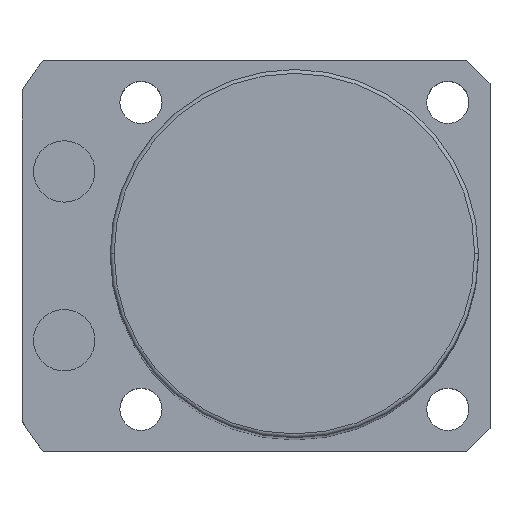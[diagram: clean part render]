
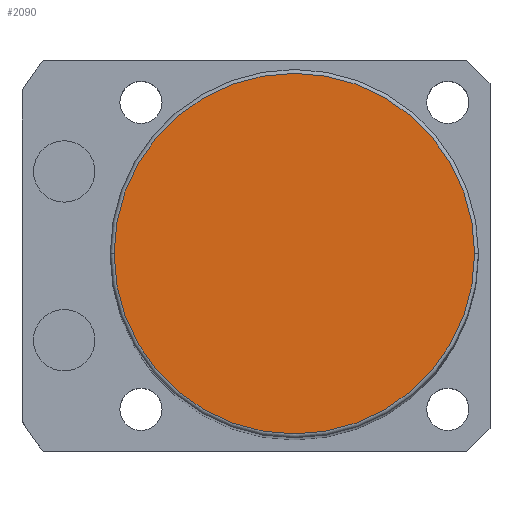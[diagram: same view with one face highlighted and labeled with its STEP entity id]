
A CAD part, top view. The second image highlights one B-rep face of the part: STEP entity #2090.
In plain terms, the highlighted planar face has unit normal (0, 0, 1).
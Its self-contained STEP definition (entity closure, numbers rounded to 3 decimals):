
#13 = DIRECTION ( 'NONE',  ( 1., 0., 0. ) ) ;
#30 = AXIS2_PLACEMENT_3D ( 'NONE', #2144, #1754, #1153 ) ;
#41 = DIRECTION ( 'NONE',  ( 1., 0., 0. ) ) ;
#211 = AXIS2_PLACEMENT_3D ( 'NONE', #587, #2195, #41 ) ;
#422 = VERTEX_POINT ( 'NONE', #1802 ) ;
#447 = EDGE_CURVE ( 'NONE', #2520, #422, #831, .T. ) ;
#587 = CARTESIAN_POINT ( 'NONE',  ( 0., 0., 176. ) ) ;
#600 = CARTESIAN_POINT ( 'NONE',  ( 23.5, 0., 176. ) ) ;
#611 = ORIENTED_EDGE ( 'NONE', *, *, #447, .T. ) ;
#831 = CIRCLE ( 'NONE', #211, 23.5 ) ;
#929 = FACE_OUTER_BOUND ( 'NONE', #1918, .T. ) ;
#1044 = CIRCLE ( 'NONE', #1276, 23.5 ) ;
#1153 = DIRECTION ( 'NONE',  ( 1., 0., 0. ) ) ;
#1276 = AXIS2_PLACEMENT_3D ( 'NONE', #2342, #1581, #13 ) ;
#1581 = DIRECTION ( 'NONE',  ( 0., 0., 1. ) ) ;
#1754 = DIRECTION ( 'NONE',  ( 0., 0., 1. ) ) ;
#1802 = CARTESIAN_POINT ( 'NONE',  ( -23.5, 0., 176. ) ) ;
#1918 = EDGE_LOOP ( 'NONE', ( #611, #2501 ) ) ;
#2090 = ADVANCED_FACE ( 'NONE', ( #929 ), #2161, .T. ) ;
#2144 = CARTESIAN_POINT ( 'NONE',  ( 0., 0., 176. ) ) ;
#2161 = PLANE ( 'NONE',  #30 ) ;
#2195 = DIRECTION ( 'NONE',  ( 0., 0., 1. ) ) ;
#2342 = CARTESIAN_POINT ( 'NONE',  ( 0., 0., 176. ) ) ;
#2457 = EDGE_CURVE ( 'NONE', #422, #2520, #1044, .T. ) ;
#2501 = ORIENTED_EDGE ( 'NONE', *, *, #2457, .T. ) ;
#2520 = VERTEX_POINT ( 'NONE', #600 ) ;
